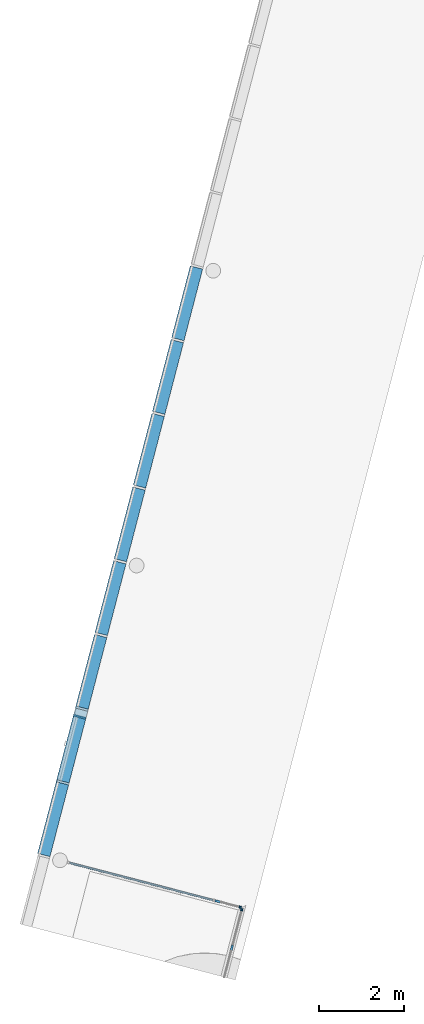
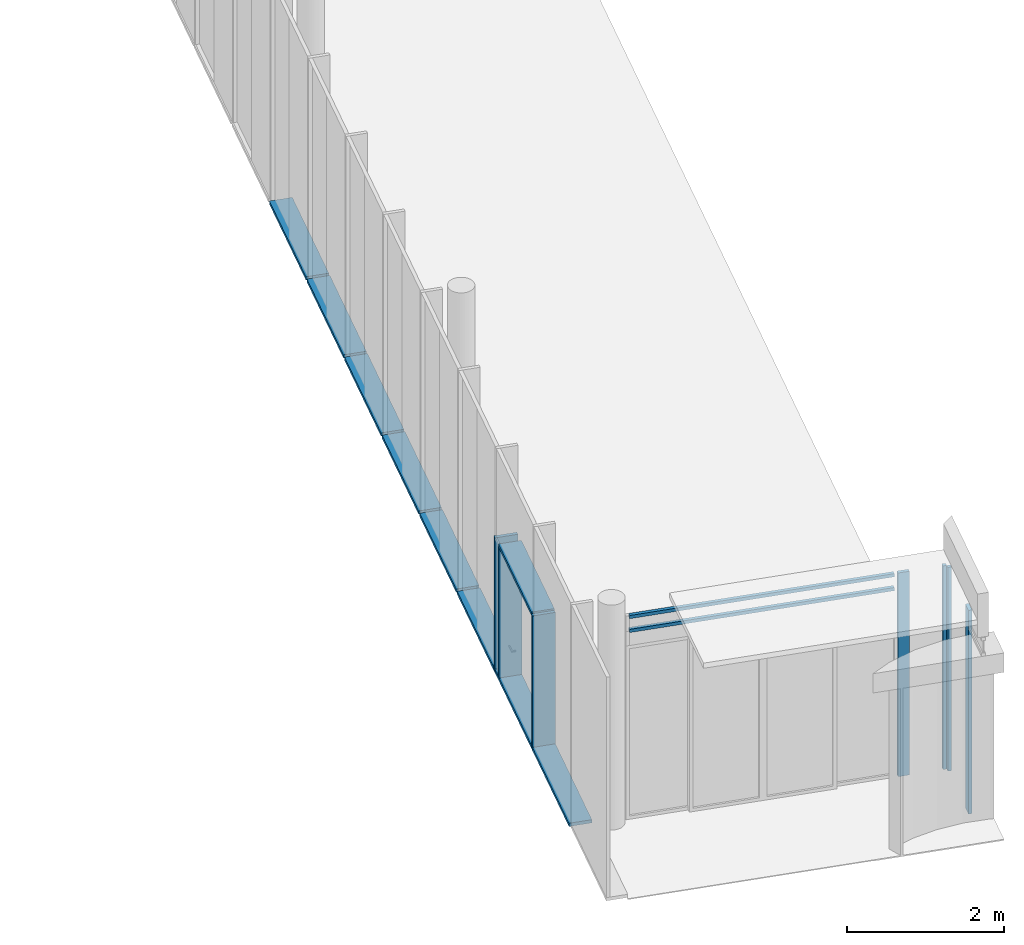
# One storey, part 1 of 9: 19 members, 7 elements without a shape of their own.
"""IFC2X3 building model written with IfcOpenShell, lengths in millimetres."""

from ifc_helpers import new_model, entity, si_unit, converted_unit, derived_unit, direction, frame, frame_2d, origin, origin_with_axes, origin_2d_with_axis, place, context, subcontext, project, spatial, rectangle, extrude, source, transform, mapped, material, type_object, element, aggregate, save


model = new_model("IFC2X3")

# Units and contexts
model_context = context("Model", 3, precision=0.01, world=origin(), true_north=direction((6.12323399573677e-17, 1.0)))
plan_context = context("Plan", 3, precision=1e-05, world=origin_with_axes())
body_context = subcontext(model_context, "Body", "Model", "MODEL_VIEW")
ifc_project = project(units=[converted_unit("PLANEANGLEUNIT", "DEGREE", entity("IfcPositiveLengthMeasure", 0.0174532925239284), si_unit("PLANEANGLEUNIT", "RADIAN"), dimensions=[0, 0, 0, 0, 0, 0, 0]), si_unit("AREAUNIT", "SQUARE_METRE"), si_unit("LENGTHUNIT", "METRE", prefix="MILLI"), si_unit("MASSUNIT", "GRAM", prefix="KILO"), si_unit("POWERUNIT", "WATT"), si_unit("PRESSUREUNIT", "PASCAL", prefix="KILO"), si_unit("FORCEUNIT", "NEWTON", prefix="KILO"), si_unit("ELECTRICVOLTAGEUNIT", "VOLT"), si_unit("ELECTRICCURRENTUNIT", "AMPERE"), si_unit("THERMODYNAMICTEMPERATUREUNIT", "DEGREE_CELSIUS"), si_unit("TIMEUNIT", "SECOND"), si_unit("VOLUMEUNIT", "CUBIC_METRE"), derived_unit("LINEARVELOCITYUNIT", [(si_unit("LENGTHUNIT", "METRE"), 1), (si_unit("TIMEUNIT", "SECOND"), -1)]), derived_unit("VOLUMETRICFLOWRATEUNIT", [(si_unit("VOLUMEUNIT", "CUBIC_METRE"), 1), (si_unit("TIMEUNIT", "SECOND"), -1)]), derived_unit("THERMALTRANSMITTANCEUNIT", [(si_unit("POWERUNIT", "WATT"), 1), (si_unit("THERMODYNAMICTEMPERATUREUNIT", "KELVIN"), -1), (si_unit("AREAUNIT", "SQUARE_METRE"), -1)]), derived_unit("SOUNDPRESSUREUNIT", [(si_unit("PRESSUREUNIT", "PASCAL"), 1)])], contexts=[model_context, plan_context])

# Site, building, storey
site_placement = place(None, frame((0.0, -2.21771188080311e-09, 0.0), z_axis=(0.0, 0.0, 1.0), x_axis=(0.266093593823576, -0.963947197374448, 0.0)))
site = spatial("IfcSite", under=ifc_project, at=site_placement, Name="ENZV", CompositionType="ELEMENT")
building_placement = place(site_placement, origin_with_axes())
building = spatial("IfcBuilding", under=site, at=building_placement, Name="ZV001", CompositionType="ELEMENT")
storey_placement = place(building_placement, frame((0.0, 0.0, 5100.0), z_axis=(0.0, 0.0, 1.0), x_axis=(1.0, 0.0, 0.0)))
storey = spatial("IfcBuildingStorey", under=building, at=storey_placement, Name="H01", CompositionType="ELEMENT", Elevation=5100.0)

# Curtain wall, member
curtain_wall_type_1 = type_object("IfcCurtainWallType", Name="Curtain Wall:Glassvegg 24 dB", PredefinedType="NOTDEFINED")
curtain_wall_1_placement = place(storey_placement, frame((0.0, 0.0, -5100.0), z_axis=(0.0, 0.0, 1.0), x_axis=(1.0, 0.0, 0.0)))
curtain_wall_1 = element("IfcCurtainWall", 1, at=curtain_wall_1_placement, inside=storey, type_object=curtain_wall_type_1, Name="Curtain Wall:Glassvegg 24 dB", ObjectType="Curtain Wall:Glassvegg 24 dB")
ifc_material = material(Name="Aluminium")
member_type_1 = type_object("IfcMemberType", Name="Rectangular Mullion:ENZV_50x50mm uten offset", PredefinedType="MULLION", material=ifc_material)
shared_shape_1 = source(origin(), body_context, "Body", "SweptSolid", [
    extrude(rectangle(XDim=50.0, YDim=50.0, at=origin_2d_with_axis()), frame((-25.0, 0.0, -3170.0), z_axis=(0.0, 0.0, 1.0), x_axis=(-1.0, 0.0, 0.0)), (0.0, 0.0, 1.0), 3170.0),
])
member_1_placement = place(curtain_wall_1_placement, frame((-156926.658234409, 371077.432579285, 8290.0), z_axis=(0.0, 0.0, 1.0), x_axis=(-0.866025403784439, 0.5, 0.0)))
member_1 = element("IfcMember", 2, at=member_1_placement, type_object=member_type_1, material=ifc_material, Name="Rectangular Mullion:ENZV_50x50mm uten offset", ObjectType="Rectangular Mullion:ENZV_50x50mm uten offset", context=body_context, shape_type="MappedRepresentation", body=[
    mapped(shared_shape_1, transform((0.0, 0.0, 0.0), scale=1.0)),
])

curtain_wall_2_placement = place(storey_placement, frame((0.0, 0.0, -5100.0), z_axis=(0.0, 0.0, 1.0), x_axis=(1.0, 0.0, 0.0)))
curtain_wall_2 = element("IfcCurtainWall", 3, at=curtain_wall_2_placement, inside=storey, type_object=curtain_wall_type_1, Name="Curtain Wall:Glassvegg 24 dB", ObjectType="Curtain Wall:Glassvegg 24 dB")
member_type_2 = type_object("IfcMemberType", Name="Rectangular Mullion:ENZV_50x50mm uten offset", PredefinedType="MULLION", material=ifc_material)
member_2_placement = place(curtain_wall_2_placement, frame((-156960.808869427, 371068.281943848, 5120.0), z_axis=(0.0, 0.0, -1.0), x_axis=(0.5, 0.866025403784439, 0.0)))
member_2 = element("IfcMember", 4, at=member_2_placement, type_object=member_type_2, material=ifc_material, Name="Rectangular Mullion:ENZV_50x50mm uten offset", ObjectType="Rectangular Mullion:ENZV_50x50mm uten offset", context=body_context, shape_type="MappedRepresentation", body=[
    mapped(shared_shape_1, transform((0.0, 0.0, 0.0), scale=1.0)),
])

# Member
member_type_3 = type_object("IfcMemberType", Name="Rectangular Mullion:FAST FELT 150MM", PredefinedType="MULLION", material=ifc_material)
shared_shape_2 = source(origin(), body_context, "Body", "SweptSolid", [
    extrude(rectangle(XDim=150.0, YDim=50.0, at=origin_2d_with_axis()), frame((-75.0, 0.0, -3170.0), z_axis=(0.0, 0.0, 1.0), x_axis=(-1.0, 0.0, 0.0)), (0.0, 0.0, 1.0), 3170.0),
])
member_3_placement = place(curtain_wall_1_placement, frame((-156025.991809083, 370557.432588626, 5120.0), z_axis=(0.0, 0.0, -1.0), x_axis=(0.866025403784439, -0.5, 0.0)))
member_3 = element("IfcMember", 5, at=member_3_placement, type_object=member_type_3, material=ifc_material, Name="Rectangular Mullion:FAST FELT 150MM", ObjectType="Rectangular Mullion:FAST FELT 150MM", context=body_context, shape_type="MappedRepresentation", body=[
    mapped(shared_shape_2, transform((0.0, 0.0, 0.0), scale=1.0)),
])

aggregate(curtain_wall_1, [member_1, member_3])

member_type_4 = type_object("IfcMemberType", Name="Rectangular Mullion:FAST FELT 150MM", PredefinedType="MULLION", material=ifc_material)
member_4_placement = place(curtain_wall_2_placement, frame((-157282.390697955, 370511.285864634, 8290.0), z_axis=(0.0, 0.0, 1.0), x_axis=(-0.5, -0.866025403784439, 0.0)))
member_4 = element("IfcMember", 6, at=member_4_placement, type_object=member_type_4, material=ifc_material, Name="Rectangular Mullion:FAST FELT 150MM", ObjectType="Rectangular Mullion:FAST FELT 150MM", context=body_context, shape_type="MappedRepresentation", body=[
    mapped(shared_shape_2, transform((0.0, 0.0, 0.0), scale=1.0)),
])

aggregate(curtain_wall_2, [member_2, member_4])

# Curtain wall, members
curtain_wall_3_placement = place(storey_placement, frame((0.0, 0.0, -5100.0), z_axis=(0.0, 0.0, 1.0), x_axis=(1.0, 0.0, 0.0)))
curtain_wall_3 = element("IfcCurtainWall", 7, at=curtain_wall_3_placement, inside=storey, type_object=curtain_wall_type_1, Name="Curtain Wall:Glassvegg 24 dB", ObjectType="Curtain Wall:Glassvegg 24 dB")
member_type_5 = type_object("IfcMemberType", Name="Rectangular Mullion:ENZV_50x50mm uten offset", PredefinedType="MULLION", material=ifc_material)
shared_shape_3 = source(origin(), body_context, "Body", "SweptSolid", [
    extrude(rectangle(XDim=50.0, YDim=50.0, at=frame_2d((0.0, 1.77635683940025e-15), x_axis=(1.0, 0.0))), frame((0.0, 0.0, -3499.78931302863), z_axis=(0.0, 0.0, 1.0), x_axis=(-1.0, 0.0, 0.0)), (0.0, 0.0, 1.0), 3499.78931302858),
])
member_5_placement = place(curtain_wall_3_placement, frame((-157307.390697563, 370467.984594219, 8049.0), z_axis=(0.5, 0.866025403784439, 0.0), x_axis=(0.0, 0.0, 1.0)))
member_5 = element("IfcMember", 8, at=member_5_placement, type_object=member_type_5, material=ifc_material, Name="Rectangular Mullion:ENZV_50x50mm uten offset", ObjectType="Rectangular Mullion:ENZV_50x50mm uten offset", context=body_context, shape_type="MappedRepresentation", body=[
    mapped(shared_shape_3, transform((0.0, 0.0, 0.0), scale=1.0)),
])
member_type_6 = type_object("IfcMemberType", Name="Rectangular Mullion:ENZV_50x50mm uten offset", PredefinedType="MULLION", material=ifc_material)
shared_shape_4 = source(origin(), body_context, "Body", "SweptSolid", [
    extrude(rectangle(XDim=50.0, YDim=50.0, at=origin_2d_with_axis()), frame((-25.0, 0.0, -3499.78931302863), z_axis=(0.0, 0.0, 1.0), x_axis=(-1.0, 0.0, 0.0)), (0.0, 0.0, 1.0), 3499.78931302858),
])
member_6_placement = place(curtain_wall_3_placement, frame((-157307.390697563, 370467.984594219, 8290.0), z_axis=(0.5, 0.866025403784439, 0.0), x_axis=(0.0, 0.0, 1.0)))
member_6 = element("IfcMember", 9, at=member_6_placement, type_object=member_type_6, material=ifc_material, Name="Rectangular Mullion:ENZV_50x50mm uten offset", ObjectType="Rectangular Mullion:ENZV_50x50mm uten offset", context=body_context, shape_type="MappedRepresentation", body=[
    mapped(shared_shape_4, transform((0.0, 0.0, 0.0), scale=1.0)),
])
aggregate(curtain_wall_3, [member_5, member_6])

# Curtain wall, member
curtain_wall_type_2 = type_object("IfcCurtainWallType", Name="Curtain Wall:Curtain Wall glass 125mm ut", PredefinedType="NOTDEFINED")
curtain_wall_4_placement = place(storey_placement, frame((0.0, 0.0, -5100.0), z_axis=(0.0, 0.0, 1.0), x_axis=(1.0, 0.0, 0.0)))
curtain_wall_4 = element("IfcCurtainWall", 10, at=curtain_wall_4_placement, inside=storey, type_object=curtain_wall_type_2, Name="Curtain Wall:Curtain Wall glass 125mm ut", ObjectType="Curtain Wall:Curtain Wall glass 125mm ut")
member_type_7 = type_object("IfcMemberType", Name="Rectangular Mullion:ENZV_304x50mm", PredefinedType="MULLION", material=ifc_material)
shared_shape_5 = source(origin(), body_context, "Body", "SweptSolid", [
    extrude(rectangle(XDim=50.0, YDim=304.0, at=origin_2d_with_axis()), frame((-25.0, 0.0, -1750.01314524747), z_axis=(0.0, 0.0, 1.0), x_axis=(-1.0, 0.0, 0.0)), (0.0, 0.0, 1.0), 1750.01314524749),
])
member_7_placement = place(curtain_wall_4_placement, frame((-159397.518695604, 366897.592197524, 5120.0), z_axis=(0.866025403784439, -0.5, 0.0), x_axis=(0.0, 0.0, -1.0)))
member_7 = element("IfcMember", 11, at=member_7_placement, type_object=member_type_7, material=ifc_material, Name="Rectangular Mullion:ENZV_304x50mm", ObjectType="Rectangular Mullion:ENZV_304x50mm", context=body_context, shape_type="MappedRepresentation", body=[
    mapped(shared_shape_5, transform((0.0, 0.0, 0.0), scale=1.0)),
])
aggregate(curtain_wall_4, [member_7])

curtain_wall_5_placement = place(storey_placement, frame((0.0, 0.0, -5100.0), z_axis=(0.0, 0.0, 1.0), x_axis=(1.0, 0.0, 0.0)))
curtain_wall_5 = element("IfcCurtainWall", 12, at=curtain_wall_5_placement, inside=storey, type_object=curtain_wall_type_2, Name="Curtain Wall:Curtain Wall glass 125mm ut", ObjectType="Curtain Wall:Curtain Wall glass 125mm ut")
member_type_8 = type_object("IfcMemberType", Name="Rectangular Mullion:ENZV_304x50mm", PredefinedType="MULLION", material=ifc_material)
shared_shape_6 = source(origin(), body_context, "Body", "SweptSolid", [
    extrude(rectangle(XDim=50.0, YDim=304.0, at=origin_2d_with_axis()), frame((-25.0, 0.0, -1749.98645965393), z_axis=(0.0, 0.0, 1.0), x_axis=(-1.0, 0.0, 0.0)), (0.0, 0.0, 1.0), 1749.98645965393),
])
member_8_placement = place(curtain_wall_5_placement, frame((-160956.345667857, 367797.631460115, 5120.0), z_axis=(0.866025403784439, -0.5, 0.0), x_axis=(0.0, 0.0, -1.0)))
member_8 = element("IfcMember", 13, at=member_8_placement, type_object=member_type_8, material=ifc_material, Name="Rectangular Mullion:ENZV_304x50mm", ObjectType="Rectangular Mullion:ENZV_304x50mm", context=body_context, shape_type="MappedRepresentation", body=[
    mapped(shared_shape_6, transform((0.0, 0.0, 0.0), scale=1.0)),
])
aggregate(curtain_wall_5, [member_8])

# Curtain wall, members
curtain_wall_6_placement = place(storey_placement, frame((0.0, 0.0, -5100.0), z_axis=(0.0, 0.0, 1.0), x_axis=(1.0, 0.0, 0.0)))
curtain_wall_6 = element("IfcCurtainWall", 14, at=curtain_wall_6_placement, inside=storey, type_object=curtain_wall_type_2, Name="Curtain Wall:Curtain Wall glass 125mm ut", ObjectType="Curtain Wall:Curtain Wall glass 125mm ut")
member_type_9 = type_object("IfcMemberType", Name="Rectangular Mullion:ENZV_304x50mm", PredefinedType="MULLION", material=ifc_material)
shared_shape_7 = source(origin(), body_context, "Body", "SweptSolid", [
    extrude(rectangle(XDim=50.0, YDim=304.0, at=origin_2d_with_axis()), frame((0.0, 0.0, -2095.0), z_axis=(0.0, 0.0, 1.0), x_axis=(-1.0, 0.0, 0.0)), (0.0, 0.0, 1.0), 2095.0),
])
member_9_placement = place(curtain_wall_6_placement, frame((-162493.486830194, 368685.30731035, 5120.0), z_axis=(0.0, 0.0, -1.0), x_axis=(-0.866025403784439, 0.5, 0.0)))
member_9 = element("IfcMember", 15, at=member_9_placement, type_object=member_type_9, material=ifc_material, Name="Rectangular Mullion:ENZV_304x50mm", ObjectType="Rectangular Mullion:ENZV_304x50mm", context=body_context, shape_type="MappedRepresentation", body=[
    mapped(shared_shape_7, transform((0.0, 0.0, 0.0), scale=1.0)),
])
member_type_10 = type_object("IfcMemberType", Name="Rectangular Mullion:ENZV_304x50mm", PredefinedType="MULLION", material=ifc_material)
member_10_placement = place(curtain_wall_6_placement, frame((-160934.684494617, 367785.232158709, 5120.0), z_axis=(0.0, 0.0, -1.0), x_axis=(-0.866025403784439, 0.5, 0.0)))
member_10 = element("IfcMember", 16, at=member_10_placement, type_object=member_type_10, material=ifc_material, Name="Rectangular Mullion:ENZV_304x50mm", ObjectType="Rectangular Mullion:ENZV_304x50mm", context=body_context, shape_type="MappedRepresentation", body=[
    mapped(shared_shape_7, transform((0.0, 0.0, 0.0), scale=1.0)),
])
member_type_11 = type_object("IfcMemberType", Name="Rectangular Mullion:ENZV_304x50mm", PredefinedType="MULLION", material=ifc_material)
shared_shape_8 = source(origin(), body_context, "Body", "SweptSolid", [
    extrude(rectangle(XDim=50.0, YDim=304.0, at=origin_2d_with_axis()), frame((0.0, 0.0, -1575.0), z_axis=(0.0, 0.0, 1.0), x_axis=(-1.0, 0.0, 0.0)), (0.0, 0.0, 1.0), 1575.00000000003),
])
member_11_placement = place(curtain_wall_6_placement, frame((-162320.286570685, 368585.298960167, 7215.0), z_axis=(-0.866025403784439, 0.5, 0.0), x_axis=(0.0, 0.0, 1.0)))
member_11 = element("IfcMember", 17, at=member_11_placement, type_object=member_type_11, material=ifc_material, Name="Rectangular Mullion:ENZV_304x50mm", ObjectType="Rectangular Mullion:ENZV_304x50mm", context=body_context, shape_type="MappedRepresentation", body=[
    mapped(shared_shape_8, transform((0.0, 0.0, 0.0), scale=1.0)),
])
member_type_12 = type_object("IfcMemberType", Name="Rectangular Mullion:ENZV_304x50mm", PredefinedType="MULLION", material=ifc_material)
shared_shape_9 = source(origin(), body_context, "Body", "SweptSolid", [
    extrude(rectangle(XDim=50.0, YDim=304.0, at=origin_2d_with_axis()), frame((0.0, 0.0, -2070.0), z_axis=(0.0, 0.0, 1.0), x_axis=(-1.0, 0.0, 0.0)), (0.0, 0.0, 1.0), 2070.0),
])
member_12_placement = place(curtain_wall_6_placement, frame((-162320.286570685, 368585.298960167, 5120.0), z_axis=(0.0, 0.0, -1.0), x_axis=(-0.866025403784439, 0.5, 0.0)))
member_12 = element("IfcMember", 18, at=member_12_placement, type_object=member_type_12, material=ifc_material, Name="Rectangular Mullion:ENZV_304x50mm", ObjectType="Rectangular Mullion:ENZV_304x50mm", context=body_context, shape_type="MappedRepresentation", body=[
    mapped(shared_shape_9, transform((0.0, 0.0, 0.0), scale=1.0)),
])
member_type_13 = type_object("IfcMemberType", Name="Rectangular Mullion:ENZV_304x50mm", PredefinedType="MULLION", material=ifc_material)
shared_shape_10 = source(origin(), body_context, "Body", "SweptSolid", [
    extrude(rectangle(XDim=50.0, YDim=304.0, at=origin_2d_with_axis()), frame((-25.0, 0.0, -1550.0), z_axis=(0.0, 0.0, 1.0), x_axis=(-1.0, 0.0, 0.0)), (0.0, 0.0, 1.0), 1550.00000000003),
])
member_13_placement = place(curtain_wall_6_placement, frame((-160956.334527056, 367797.733202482, 5120.0), z_axis=(0.866025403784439, -0.5, 0.0), x_axis=(0.0, 0.0, -1.0)))
member_13 = element("IfcMember", 19, at=member_13_placement, type_object=member_type_13, material=ifc_material, Name="Rectangular Mullion:ENZV_304x50mm", ObjectType="Rectangular Mullion:ENZV_304x50mm", context=body_context, shape_type="MappedRepresentation", body=[
    mapped(shared_shape_10, transform((0.0, 0.0, 0.0), scale=1.0)),
])
aggregate(curtain_wall_6, [member_9, member_10, member_11, member_12, member_13])

curtain_wall_7_placement = place(storey_placement, frame((0.0, 0.0, -5100.0), z_axis=(0.0, 0.0, 1.0), x_axis=(1.0, 0.0, 0.0)))
curtain_wall_7 = element("IfcCurtainWall", 20, at=curtain_wall_7_placement, inside=storey, type_object=curtain_wall_type_2, Name="Curtain Wall:Curtain Wall glass 125mm ut", ObjectType="Curtain Wall:Curtain Wall glass 125mm ut")
member_type_14 = type_object("IfcMemberType", Name="Rectangular Mullion:ENZV_304x50mm", PredefinedType="MULLION", material=ifc_material)
shared_shape_11 = source(origin(), body_context, "Body", "SweptSolid", [
    extrude(rectangle(XDim=50.0, YDim=304.0, at=origin_2d_with_axis()), frame((-25.0, 0.0, -1750.040305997), z_axis=(0.0, 0.0, 1.0), x_axis=(-1.0, 0.0, 0.0)), (0.0, 0.0, 1.0), 1750.04030599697),
])
member_14_placement = place(curtain_wall_7_placement, frame((-164031.43567082, 369571.597030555, 5120.0), z_axis=(-0.866025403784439, 0.5, 0.0), x_axis=(0.0, 0.0, -1.0)))
member_14 = element("IfcMember", 21, at=member_14_placement, type_object=member_type_14, material=ifc_material, Name="Rectangular Mullion:ENZV_304x50mm", ObjectType="Rectangular Mullion:ENZV_304x50mm", context=body_context, shape_type="MappedRepresentation", body=[
    mapped(shared_shape_11, transform((0.0, 0.0, 0.0), scale=1.0)),
])
member_type_15 = type_object("IfcMemberType", Name="Rectangular Mullion:ENZV_304x50mm", PredefinedType="MULLION", material=ifc_material)
shared_shape_12 = source(origin(), body_context, "Body", "SweptSolid", [
    extrude(rectangle(XDim=50.0, YDim=304.0, at=origin_2d_with_axis()), frame((-25.0, 0.0, -1750.0), z_axis=(0.0, 0.0, 1.0), x_axis=(-1.0, 0.0, 0.0)), (0.0, 0.0, 1.0), 1750.00000000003),
])
member_15_placement = place(curtain_wall_7_placement, frame((-165590.239473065, 370471.669642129, 5120.0), z_axis=(-0.866025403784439, 0.5, 0.0), x_axis=(0.0, 0.0, -1.0)))
member_15 = element("IfcMember", 22, at=member_15_placement, type_object=member_type_15, material=ifc_material, Name="Rectangular Mullion:ENZV_304x50mm", ObjectType="Rectangular Mullion:ENZV_304x50mm", context=body_context, shape_type="MappedRepresentation", body=[
    mapped(shared_shape_12, transform((0.0, 0.0, 0.0), scale=1.0)),
])
member_16_placement = place(curtain_wall_7_placement, frame((-167149.04327531, 371371.742253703, 5120.0), z_axis=(-0.866025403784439, 0.5, 0.0), x_axis=(0.0, 0.0, -1.0)))
member_16 = element("IfcMember", 23, at=member_16_placement, type_object=member_type_15, material=ifc_material, Name="Rectangular Mullion:ENZV_304x50mm", ObjectType="Rectangular Mullion:ENZV_304x50mm", context=body_context, shape_type="MappedRepresentation", body=[
    mapped(shared_shape_12, transform((0.0, 0.0, 0.0), scale=1.0)),
])
member_17_placement = place(curtain_wall_7_placement, frame((-168707.847077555, 372271.814865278, 5120.0), z_axis=(-0.866025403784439, 0.5, 0.0), x_axis=(0.0, 0.0, -1.0)))
member_17 = element("IfcMember", 24, at=member_17_placement, type_object=member_type_15, material=ifc_material, Name="Rectangular Mullion:ENZV_304x50mm", ObjectType="Rectangular Mullion:ENZV_304x50mm", context=body_context, shape_type="MappedRepresentation", body=[
    mapped(shared_shape_12, transform((0.0, 0.0, 0.0), scale=1.0)),
])
member_18_placement = place(curtain_wall_7_placement, frame((-170266.6508798, 373171.887476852, 5120.0), z_axis=(-0.866025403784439, 0.5, 0.0), x_axis=(0.0, 0.0, -1.0)))
member_18 = element("IfcMember", 25, at=member_18_placement, type_object=member_type_15, material=ifc_material, Name="Rectangular Mullion:ENZV_304x50mm", ObjectType="Rectangular Mullion:ENZV_304x50mm", context=body_context, shape_type="MappedRepresentation", body=[
    mapped(shared_shape_12, transform((0.0, 0.0, 0.0), scale=1.0)),
])
member_19_placement = place(curtain_wall_7_placement, frame((-171825.454682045, 374071.960088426, 5120.0), z_axis=(-0.866025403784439, 0.5, 0.0), x_axis=(0.0, 0.0, -1.0)))
member_19 = element("IfcMember", 26, at=member_19_placement, type_object=member_type_15, material=ifc_material, Name="Rectangular Mullion:ENZV_304x50mm", ObjectType="Rectangular Mullion:ENZV_304x50mm", context=body_context, shape_type="MappedRepresentation", body=[
    mapped(shared_shape_12, transform((0.0, 0.0, 0.0), scale=1.0)),
])
aggregate(curtain_wall_7, [member_14, member_15, member_16, member_17, member_18, member_19])

save(model, "model.ifc")
